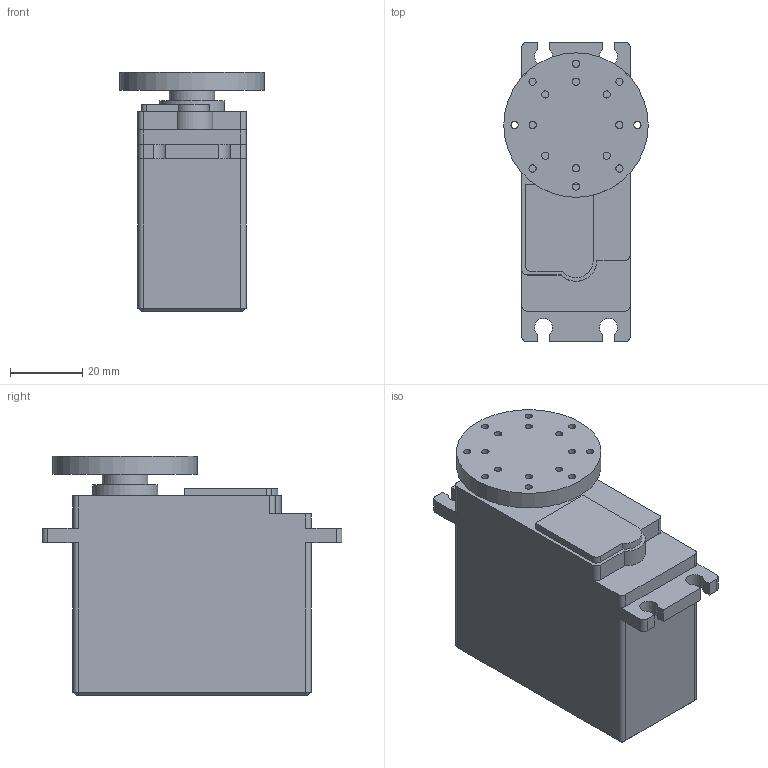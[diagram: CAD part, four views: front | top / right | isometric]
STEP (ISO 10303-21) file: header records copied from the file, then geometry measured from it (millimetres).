
FILE_DESCRIPTION(/* description */ ('Alibre Inc.'),/* implementation_level */ '2;1');
FILE_NAME(/* name */ 'export0',/* time_stamp */ '2013-08-08T14:19:16-06:00',/* author */ (''),/* organization */ (''),/* preprocessor_version */ 'ST-DEVELOPER v14',/* originating_system */ 'Alibre',/* authorisation */ '');
FILE_SCHEMA (('ALIBRE_SCHEMA','CONFIG_CONTROL_DESIGN'));
Length unit declared in the file: centimetre
Products named in the file (1): ID_1
Bounding box: 40 x 83 x 66.4 mm (x, y, z)
Volume: 117566.7 mm3; surface area: 19152.7 mm2
Topology: 1 solids, 1 shells, 85 faces, 245 edges, 166 vertices
Faces by surface type: plane 41, cylinder 40, cone 4
Full cylindrical faces by diameter (mm): 2 x16, 12.6 x1, 18 x1, 40 x1
Entity records: 6163 total; most frequent: CARTESIAN_POINT 841, DIRECTION 580, ORIENTED_EDGE 420, CONSTRAINTPAIRUV 409, REFERENCEDEPENDENTUV 323, VECTOR 278, REFERENCEPOINTUV 257, LINE 215
